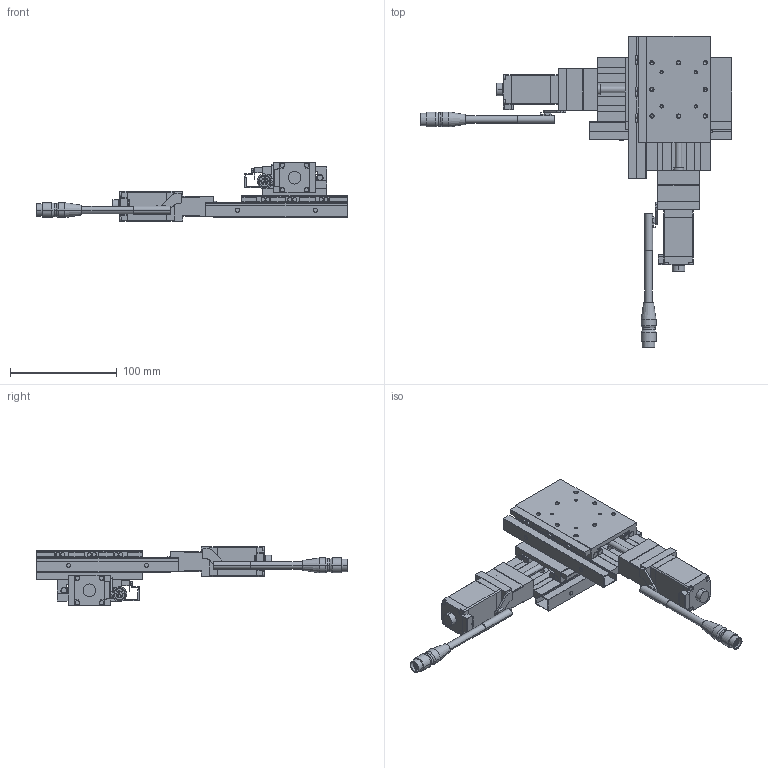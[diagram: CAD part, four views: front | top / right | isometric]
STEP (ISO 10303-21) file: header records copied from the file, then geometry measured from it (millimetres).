
FILE_DESCRIPTION(('STEP AP203'),'1');
FILE_NAME('C:/3D-Trans/3D_PMG650T-L□-D+240122.step','2024-03-14T04:36:34',(' '),(' '),'Spatial InterOp 3D',' ',' ');
FILE_SCHEMA(('CONFIG_CONTROL_DESIGN'));
Length unit declared in the file: millimetre
Products named in the file (13): 1; 2; 3; 4; 5; 6; 7; 8; 9; 10; 11; 12; 13
Bounding box: 292.5 x 292.5 x 55 mm (x, y, z)
Volume: 400483.8 mm3; surface area: 171965.7 mm2
Topology: 13 solids, 13 shells, 1320 faces, 3296 edges, 2086 vertices
Faces by surface type: plane 736, cylinder 436, cone 148
Entity records: 39638 total; most frequent: DIRECTION 6996, CARTESIAN_POINT 6681, ORIENTED_EDGE 6512, EDGE_CURVE 3256, AXIS2_PLACEMENT_3D 2409, LINE 2178, VECTOR 2178, VERTEX_POINT 2086
